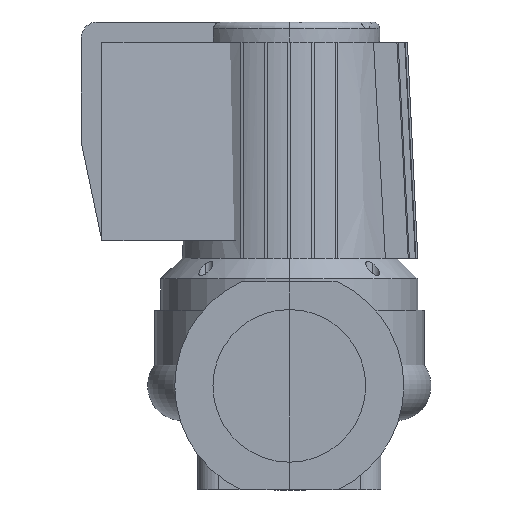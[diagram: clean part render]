
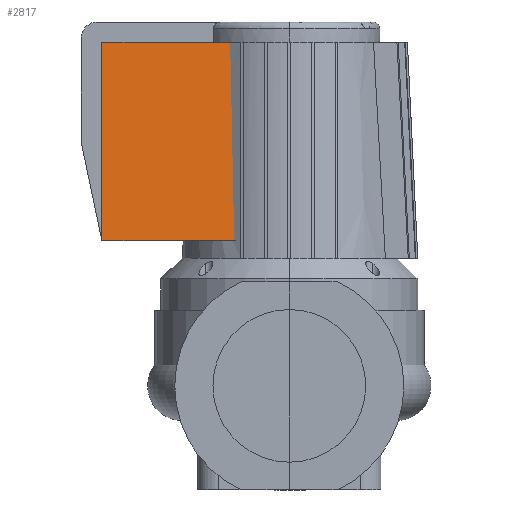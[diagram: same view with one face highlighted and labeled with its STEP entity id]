
A CAD part, left-side view. The second image highlights one B-rep face of the part: STEP entity #2817.
In plain terms, the highlighted planar face has unit normal (-0.998, 0, 0.07).
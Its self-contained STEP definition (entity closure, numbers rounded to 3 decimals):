
#251=PLANE('',#3062);
#404=FACE_OUTER_BOUND('',#584,.T.);
#584=EDGE_LOOP('',(#2377,#2378,#2379,#2380));
#733=LINE('',#5825,#937);
#741=LINE('',#5910,#945);
#750=LINE('',#5927,#954);
#751=LINE('',#5928,#955);
#937=VECTOR('',#3554,304.8);
#945=VECTOR('',#3570,304.8);
#954=VECTOR('',#3583,304.8);
#955=VECTOR('',#3584,304.8);
#1313=VERTEX_POINT('',#5823);
#1314=VERTEX_POINT('',#5824);
#1324=VERTEX_POINT('',#5908);
#1330=VERTEX_POINT('',#5926);
#1673=EDGE_CURVE('',#1313,#1314,#733,.T.);
#1686=EDGE_CURVE('',#1314,#1324,#741,.T.);
#1695=EDGE_CURVE('',#1330,#1324,#750,.T.);
#1696=EDGE_CURVE('',#1313,#1330,#751,.T.);
#2377=ORIENTED_EDGE('',*,*,#1695,.F.);
#2378=ORIENTED_EDGE('',*,*,#1696,.F.);
#2379=ORIENTED_EDGE('',*,*,#1673,.T.);
#2380=ORIENTED_EDGE('',*,*,#1686,.T.);
#2817=ADVANCED_FACE('',(#404),#251,.T.);
#3062=AXIS2_PLACEMENT_3D('',#5925,#3581,#3582);
#3554=DIRECTION('',(0.07,0.,0.998));
#3570=DIRECTION('',(0.,1.,0.));
#3581=DIRECTION('center_axis',(-0.998,0.,0.07));
#3582=DIRECTION('ref_axis',(0.,1.,0.));
#3583=DIRECTION('',(0.07,0.,0.998));
#3584=DIRECTION('',(0.,1.,0.));
#5823=CARTESIAN_POINT('',(33803.617,-37446.239,104.464));
#5824=CARTESIAN_POINT('',(33813.617,-37446.239,247.574));
#5825=CARTESIAN_POINT('',(33803.617,-37446.239,104.464));
#5908=CARTESIAN_POINT('',(33813.617,-37346.239,247.574));
#5910=CARTESIAN_POINT('',(33813.617,-37446.239,247.574));
#5925=CARTESIAN_POINT('Origin',(33813.617,-37481.239,247.574));
#5926=CARTESIAN_POINT('',(33803.617,-37346.239,104.464));
#5927=CARTESIAN_POINT('',(33803.617,-37346.239,104.464));
#5928=CARTESIAN_POINT('',(33803.617,-37446.239,104.464));
